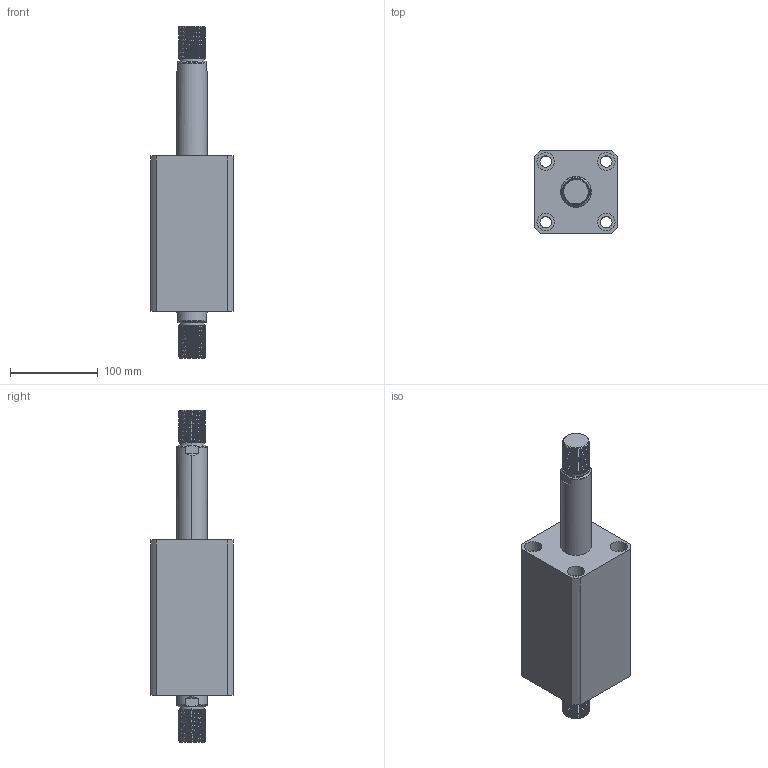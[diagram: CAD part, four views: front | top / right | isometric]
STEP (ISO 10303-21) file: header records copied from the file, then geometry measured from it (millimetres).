
FILE_DESCRIPTION (( 'STEP AP214' ), '1' );
FILE_NAME ('chtb-sw63x95w_asm.STEP', '2018-05-19T03:39:07', ( 'Windows' ), ( 'Microsoft' ), 'SwSTEP 2.0', 'SolidWorks 2015', '' );
FILE_SCHEMA (( 'AUTOMOTIVE_DESIGN' ));
Length unit declared in the file: millimetre
Products named in the file (4): CHTB-SW63X95WHSG; CHTB-SW63X95NBT; CHTB-63QG; chtb-sw63x95w_asm
Assembly tree (3 placements, depth 2):
  chtb-sw63x95w_asm
    CHTB-63QG
    CHTB-SW63X95NBT
    CHTB-SW63X95WHSG
Bounding box: 94 x 94 x 378 mm (x, y, z)
Volume: 1395708.4 mm3; surface area: 218163.8 mm2
Topology: 3 solids, 3 shells, 296 faces, 841 edges, 569 vertices
Faces by surface type: cylinder 206, plane 46, bspline 16, cone 16, torus 12
Entity records: 27380 total; most frequent: CARTESIAN_POINT 20442, ORIENTED_EDGE 1674, DIRECTION 1166, EDGE_CURVE 837, VERTEX_POINT 569, AXIS2_PLACEMENT_3D 453, EDGE_LOOP 334, ADVANCED_FACE 296
